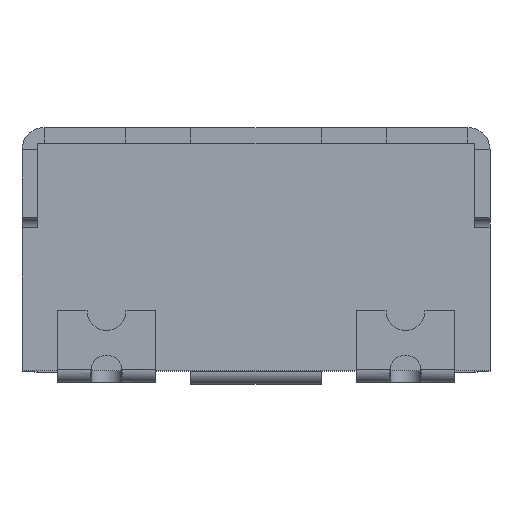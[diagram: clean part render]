
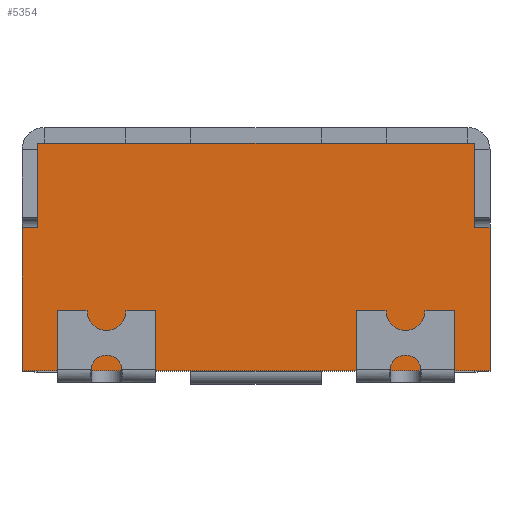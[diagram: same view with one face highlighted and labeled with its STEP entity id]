
A CAD part, top view. The second image highlights one B-rep face of the part: STEP entity #5354.
In plain terms, the highlighted planar face has unit normal (0, 0, 1).
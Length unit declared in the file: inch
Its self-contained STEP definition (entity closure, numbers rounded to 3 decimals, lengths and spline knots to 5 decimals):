
#23=DIRECTION('',(1.,0.,0.));
#24=VECTOR('',#23,0.13228);
#25=CARTESIAN_POINT('',(-0.06614,0.,0.06693));
#26=LINE('',#25,#24);
#2097=DIRECTION('',(1.,0.,0.));
#2098=VECTOR('',#2097,0.14173);
#2099=CARTESIAN_POINT('',(-0.07087,-0.0689,
0.06693));
#2100=LINE('',#2099,#2098);
#2323=DIRECTION('',(0.,1.,0.));
#2324=VECTOR('',#2323,0.02559);
#2325=CARTESIAN_POINT('',(-0.06614,-0.02559,
0.06693));
#2326=LINE('',#2325,#2324);
#2327=DIRECTION('',(0.,1.,0.));
#2328=VECTOR('',#2327,0.02559);
#2329=CARTESIAN_POINT('',(0.06614,-0.02559,
0.06693));
#2330=LINE('',#2329,#2328);
#2331=DIRECTION('',(-1.,0.,0.));
#2332=VECTOR('',#2331,0.00472);
#2333=CARTESIAN_POINT('',(0.07087,-0.02559,
0.06693));
#2334=LINE('',#2333,#2332);
#2335=DIRECTION('',(0.,-1.,0.));
#2336=VECTOR('',#2335,0.04331);
#2337=CARTESIAN_POINT('',(-0.07087,-0.02559,
0.06693));
#2338=LINE('',#2337,#2336);
#2339=DIRECTION('',(1.,0.,0.));
#2340=VECTOR('',#2339,0.00472);
#2341=CARTESIAN_POINT('',(-0.07087,-0.02559,
0.06693));
#2342=LINE('',#2341,#2340);
#2347=DIRECTION('',(0.,-1.,0.));
#2348=VECTOR('',#2347,0.04331);
#2349=CARTESIAN_POINT('',(0.07087,-0.02559,
0.06693));
#2350=LINE('',#2349,#2348);
#2437=CARTESIAN_POINT('',(-0.07087,-0.0689,
0.06693));
#2438=CARTESIAN_POINT('',(0.07087,-0.0689,
0.06693));
#2439=VERTEX_POINT('',#2437);
#2440=VERTEX_POINT('',#2438);
#2466=CARTESIAN_POINT('',(0.06614,0.,0.06693));
#2468=VERTEX_POINT('',#2466);
#2481=CARTESIAN_POINT('',(0.07087,-0.02559,
0.06693));
#2483=VERTEX_POINT('',#2481);
#2487=CARTESIAN_POINT('',(0.06614,-0.02559,
0.06693));
#2488=VERTEX_POINT('',#2487);
#2499=CARTESIAN_POINT('',(-0.06614,-0.02559,
0.06693));
#2500=VERTEX_POINT('',#2499);
#2510=CARTESIAN_POINT('',(-0.06614,0.,0.06693));
#2512=VERTEX_POINT('',#2510);
#2519=CARTESIAN_POINT('',(-0.07087,-0.02559,
0.06693));
#2520=VERTEX_POINT('',#2519);
#5337=CARTESIAN_POINT('',(-0.07087,0.,0.06693));
#5338=DIRECTION('',(0.,0.,1.));
#5339=DIRECTION('',(1.,0.,0.));
#5340=AXIS2_PLACEMENT_3D('',#5337,#5338,#5339);
#5341=PLANE('',#5340);
#5342=ORIENTED_EDGE('',*,*,#3713,.T.);
#5343=ORIENTED_EDGE('',*,*,#2992,.T.);
#5344=ORIENTED_EDGE('',*,*,#3767,.F.);
#5346=ORIENTED_EDGE('',*,*,#5345,.F.);
#5348=ORIENTED_EDGE('',*,*,#5347,.T.);
#5349=ORIENTED_EDGE('',*,*,#4838,.F.);
#5350=ORIENTED_EDGE('',*,*,#5289,.F.);
#5351=ORIENTED_EDGE('',*,*,#5330,.T.);
#5352=EDGE_LOOP('',(#5342,#5343,#5344,#5346,#5348,#5349,#5350,#5351));
#5353=FACE_OUTER_BOUND('',#5352,.F.);
#5354=ADVANCED_FACE('',(#5353),#5341,.T.);
#2992=EDGE_CURVE('',#2512,#2468,#26,.T.);
#3713=EDGE_CURVE('',#2500,#2512,#2326,.T.);
#3767=EDGE_CURVE('',#2488,#2468,#2330,.T.);
#4838=EDGE_CURVE('',#2439,#2440,#2100,.T.);
#5289=EDGE_CURVE('',#2520,#2439,#2338,.T.);
#5330=EDGE_CURVE('',#2520,#2500,#2342,.T.);
#5345=EDGE_CURVE('',#2483,#2488,#2334,.T.);
#5347=EDGE_CURVE('',#2483,#2440,#2350,.T.);
